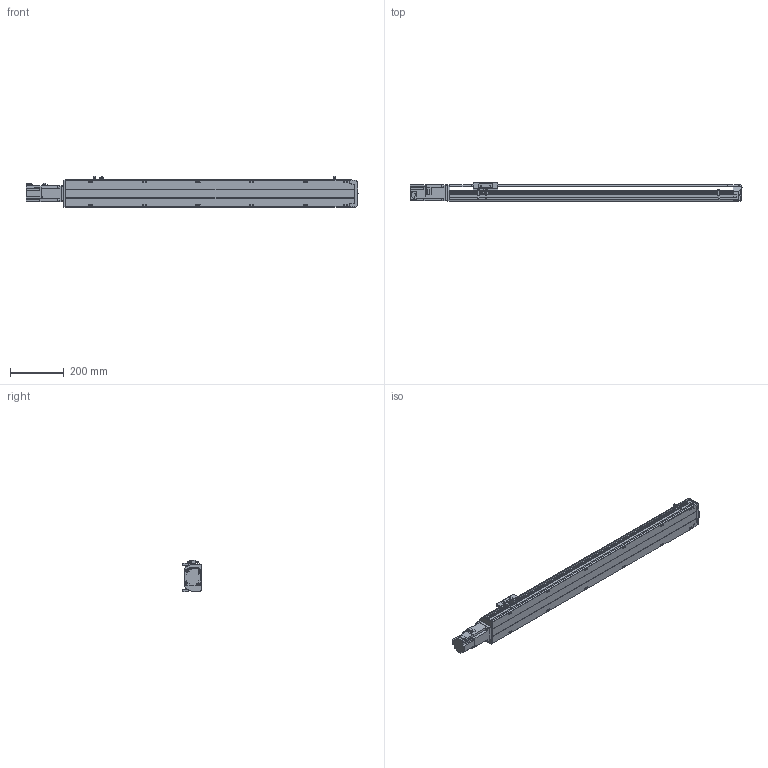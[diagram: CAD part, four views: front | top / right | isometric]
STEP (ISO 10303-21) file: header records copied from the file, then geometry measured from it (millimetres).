
FILE_DESCRIPTION( ( 'STEP AP214' ), '1' );
FILE_NAME( 'x:/temp/worker_13/temp/exporttempdir_3252_149_IiZ6Z/format_0/PSS120-L10-S850-BC-T40-C1-N(0).stp', '2022-06-02T00:33:35', ( 'License CC BY-ND 4.0' ), ( 'CADENAS' ), ' ', 'PARTsolutions', ' ' );
FILE_SCHEMA( ( 'AUTOMOTIVE_DESIGN { 1 0 10303 214 1 1 1 1 }' ) );
Length unit declared in the file: millimetre
Products named in the file (8): PSS120-L10-S850-BC-T40-C1-N(0); _PSS120-S850-BC-C1-N_body; _PSS120-N_Q; _PSS120-BC-C1-N_sl; _PSS120-N_sensor; _PSS120BC-N_h; _T40-p1; _PSS120-S850-BC-N_S
Assembly tree (9 placements, depth 2):
  PSS120-L10-S850-BC-T40-C1-N(0)
    _PSS120-S850-BC-C1-N_body
    _PSS120-N_Q
    _PSS120-BC-C1-N_sl
    _PSS120-N_sensor  x3
    _PSS120BC-N_h
    _T40-p1
    _PSS120-S850-BC-N_S
Bounding box: 1238.7 x 70 x 117.7 mm (x, y, z)
Volume: 3947692.5 mm3; surface area: 705141.5 mm2
Topology: 9 solids, 9 shells, 833 faces, 2224 edges, 1474 vertices
Faces by surface type: plane 559, cylinder 250, cone 24
Full cylindrical faces by diameter (mm): 2.8 x3, 4 x4, 4.134 x16, 4.2 x4, 4.4 x2, 4.5 x4, 4.6 x3, 4.917 x4, 5 x6, 5.5 x19, 7 x2, 8 x8, 8.5 x16, 14 x1, 28 x1, 32 x1, 50 x1
Entity records: 28505 total; most frequent: CARTESIAN_POINT 4406, DIRECTION 3747, ORIENTED_EDGE 3610, EDGE_CURVE 1805, VERTEX_POINT 1262, LINE 1253, VECTOR 1253, AXIS2_PLACEMENT_3D 1247
